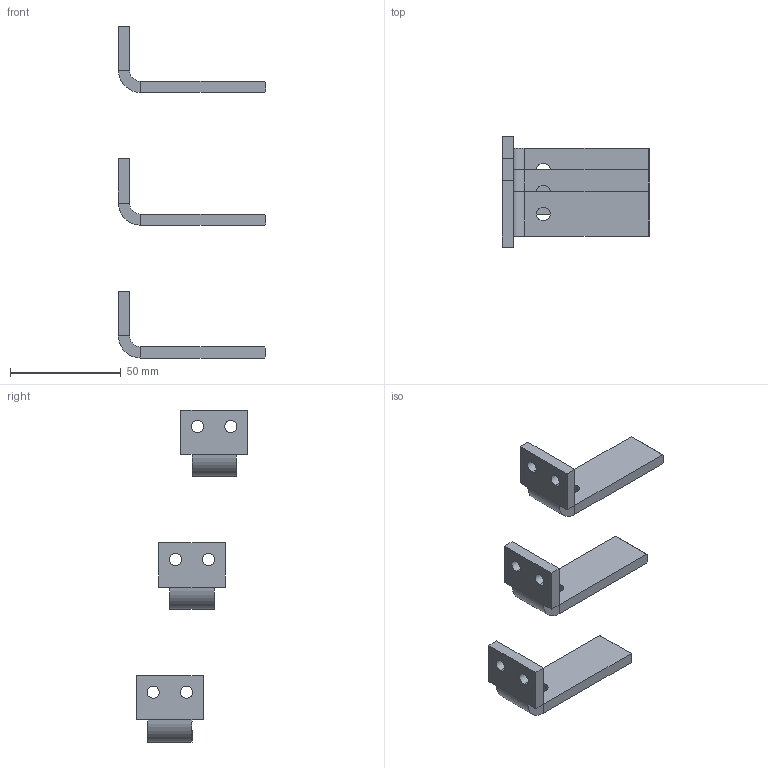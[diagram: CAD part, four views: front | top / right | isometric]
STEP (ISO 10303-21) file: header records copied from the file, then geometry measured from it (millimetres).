
FILE_DESCRIPTION(('CAx-IF Rec.Pracs.---Model Styling and Organization---1.2---2011-12-15','CAx-IF Rec.Pracs.---Geometric and Assembly Validation Properties---4.1---2014-06-16','CAx-IF Rec.Pracs.---PMI Polyline Presentation---2.0---2013-05-24'),'2;1');
FILE_NAME('R5M2WBA3P2.stp','2021-05-05T11:53:10+03:00',(''),(''),'STEP Interface 4.4 by CT CoreTechnologie','3D_Evolution4.4 by CT CoreTechnologie','');
FILE_SCHEMA(('AUTOMOTIVE_DESIGN { 1 0 10303 214 1 1 1 1 }'));
Length unit declared in the file: millimetre
Products named in the file (2): R5M2WBA3P2; RB.1292.00.00.0_-00
Assembly tree (3 placements, depth 2):
  R5M2WBA3P2
    RB.1292.00.00.0_-00  x3
Bounding box: 66.5 x 50 x 150 mm (x, y, z)
Surface area: 15649.8 mm2 (no closed solid volume)
Topology: 0 solids, 3 shells, 72 faces, 174 edges, 108 vertices
Faces by surface type: plane 48, cylinder 24
Entity records: 819 total; most frequent: DIRECTION 130, CARTESIAN_POINT 122, ORIENTED_EDGE 116, EDGE_CURVE 58, AXIS2_PLACEMENT_3D 44, VECTOR 42, LINE 42, VERTEX_POINT 36
